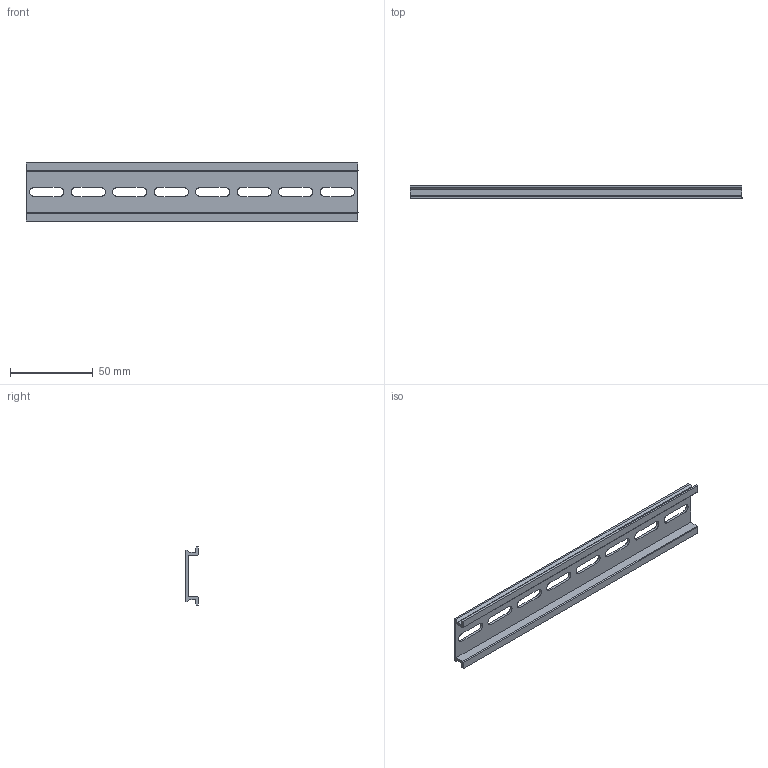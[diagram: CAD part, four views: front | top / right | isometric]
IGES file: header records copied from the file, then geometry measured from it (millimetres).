
Start section: ------------------------------------------------------------------------
Global section: file name: D:\ICADMX\tmp\trans3d_spg\CVICAD02.21224.DIN-RAIL200_7775.igs; native system: spGate; preprocessor: ver12.6.6; author: Unknown; organization: Unknown; date: 200901.142021; units: millimetre
Bounding box: 200 x 7.5 x 35 mm (x, y, z)
Volume: 14119.7 mm3; surface area: 18960.5 mm2
Topology: 1 solids, 1 shells, 52 faces, 150 edges, 100 vertices
Faces by surface type: bspline 52
